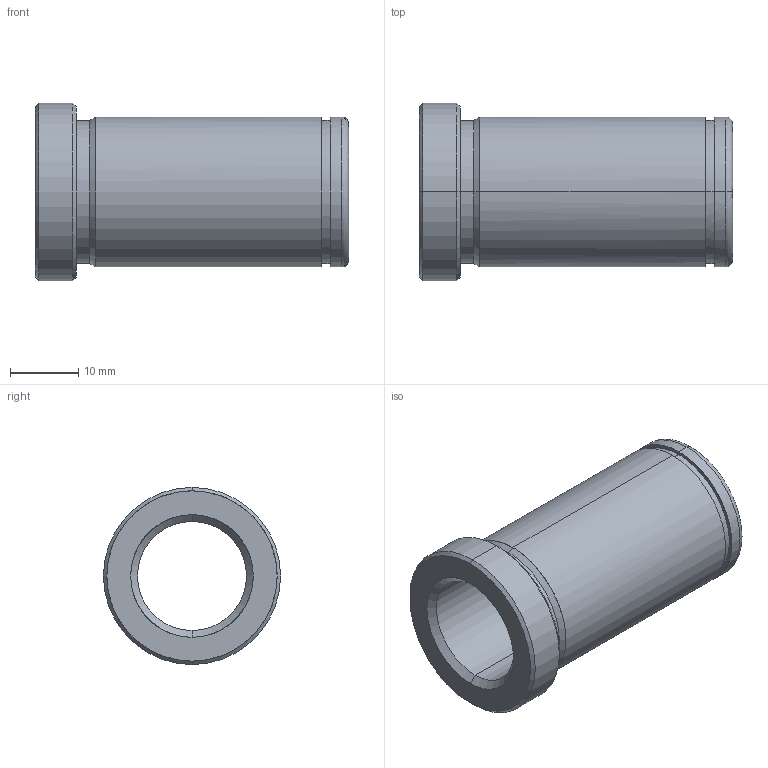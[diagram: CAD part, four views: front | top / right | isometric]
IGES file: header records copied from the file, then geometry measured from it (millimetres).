
Start section: START RECORD GO HERE.
Global section: file name: 553-16X46.igs; native system: DASSAULT SYSTEMES CATIA V5 R20 - www.3ds.com; preprocessor: CATIA Version 5 Release 20 ; author: Utente; organization: NB04-ASUS; date: 20210521.205717; units: millimetre
Bounding box: 46 x 26 x 26 mm (x, y, z)
Surface area: 6187.2 mm2 (no closed solid volume)
Topology: 0 solids, 0 shells, 29 faces, 184 edges, 184 vertices
Faces by surface type: revolution 24, plane 5
